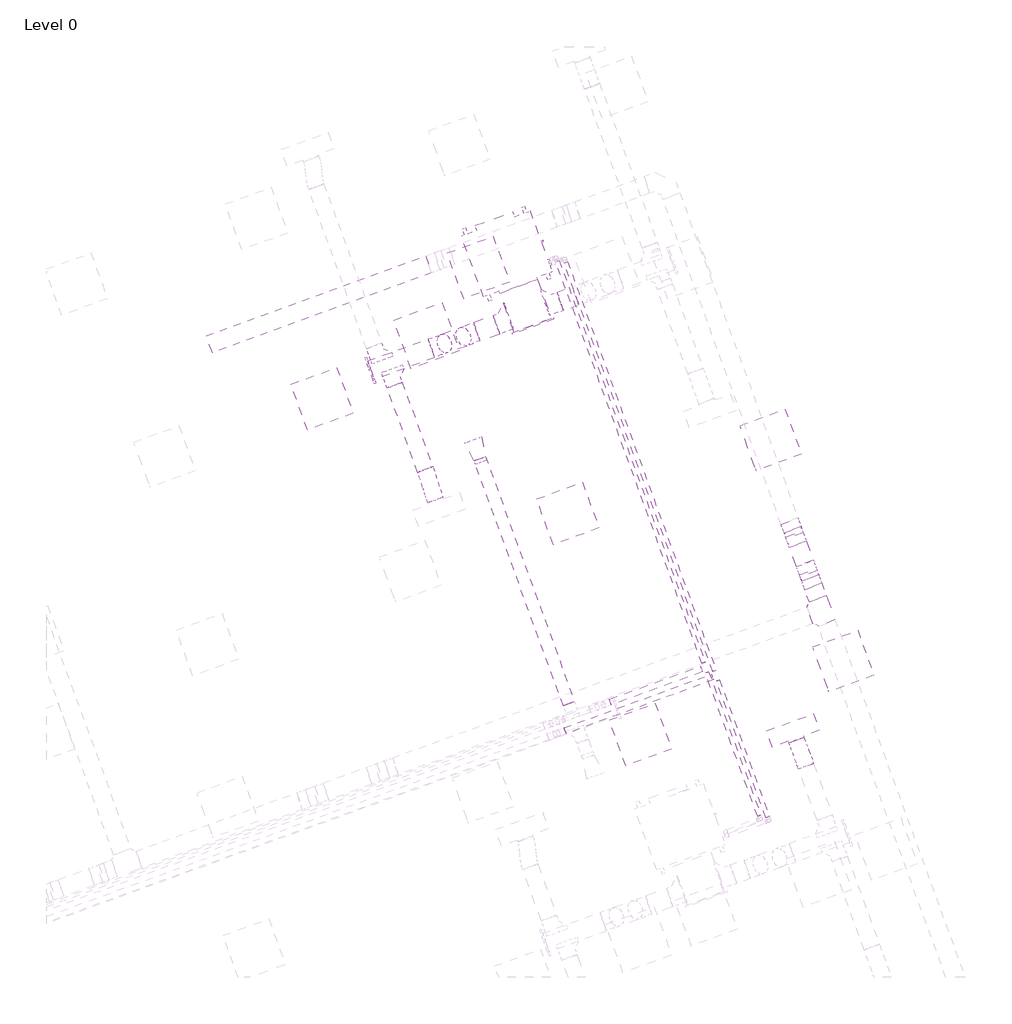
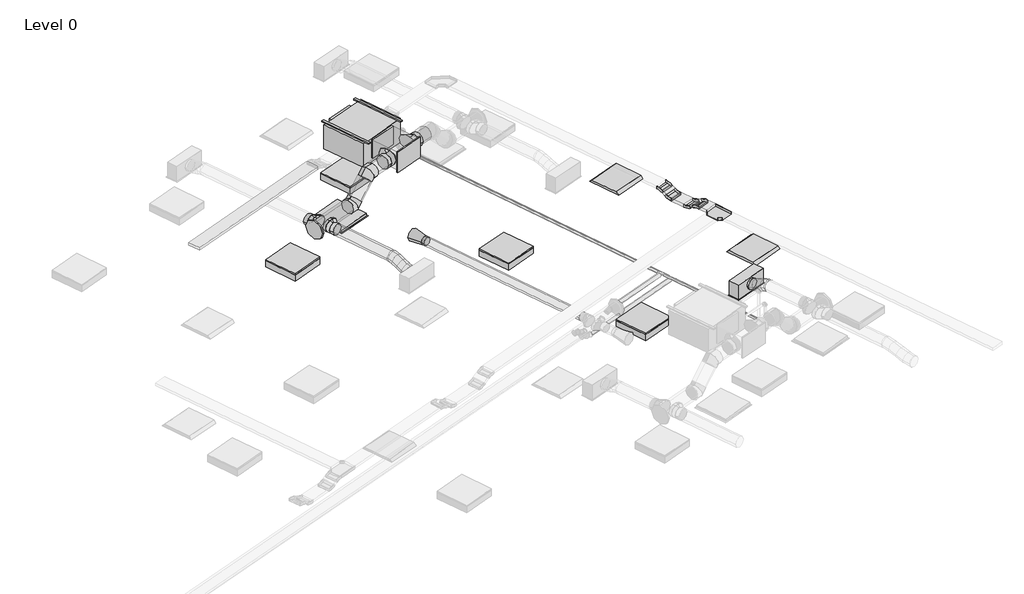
# One storey, part 32 of 34: 9 duct segments, 8 duct fittings, 6 light fixtures, 6 pipe segments, 5 cable carrier fittings, 5 cable carrier segments, 3 air terminals, 1 proxy.
"""IFC4 building model written with IfcOpenShell, lengths in millimetres."""

from ifc_helpers import new_model, si_unit, point, frame, frame_2d, origin, place, context, project, spatial, polyline, circle_curve, ellipse_curve, trimmed, segment, composite_curve, outline, extrude, transform, mapped, element, save
from ifc_brep_helpers import plane_surface, cylinder_surface, advanced_brep
from components import air_terminal_b88b8e4d, return_grille_rectangular_hosted_standard_7b12617c, supply_diffuser_with_plenum_linear_slot_hosted_8c379eed, fan_coil_unit_ceiling_ducted_chw_376_lps_9c8cc8ac, cable_tray_horizontal_tee_standard_d76b5e15, cable_tray_vertical_inside_bend_standard_9a66f55b, cable_tray_vertical_outside_bend_standard_4df2047e, dw144_rectangular_blank_end_standard_1669e3e3, dw144_round_blank_end_standard_e3d0b58b, dw144_round_segmented_bend_slip_joint_standard_636bd9c1, dw144_round_shoe_branch_slip_joint1_standard_2_559552f4, dw144_round_shoe_branch_slip_joint1_standard_2_4a92c8a1, dw144_round_shoe_branch_slip_joint1_standard_2_671412f0, light_fixture_b730b5ca, troffer_light_2x2_parabolic_2_x2_2_lamp_120v_6a063ff3

model = new_model("IFC4")

# Units and contexts
model_context = context("Model", 3, world=origin())
ifc_project = project(units=[si_unit("LENGTHUNIT", "METRE", prefix="MILLI")], contexts=[model_context])

# Site, building, storey
site = spatial("IfcSite", under=ifc_project)
building = spatial("IfcBuilding", under=site)
storey = spatial("IfcBuildingStorey", under=building, Name="Level 0", Elevation=0.0)

# Air terminals
placement = place(None, origin())
air_terminal_shape = air_terminal_b88b8e4d(model_context)
element("IfcAirTerminal", 1, ObjectType="Supply_Bell_Mouth_Grille : Supply_Bell_Mouth_Grille", at=placement, inside=storey, context=model_context, shape_type="MappedRepresentation", body=[
    mapped(air_terminal_shape, transform((58081.5319053, 19738.0197173, 3050.0), x_axis=(-0.3420201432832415, 0.9396926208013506, 0.0), y_axis=(-0.9396926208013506, -0.3420201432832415, 0.0), z_axis=(0.0, 0.0, 1.0))),
])
return_grille_rectangular_hosted_standard_shape = return_grille_rectangular_hosted_standard_7b12617c(model_context)
element("IfcAirTerminal", 2, ObjectType="Return Grille - Rectangular - Hosted : Standard", at=placement, inside=storey, context=model_context, shape_type="MappedRepresentation", body=[
    mapped(return_grille_rectangular_hosted_standard_shape, transform((57415.537706, 21278.3997704, 2800.0), x_axis=(0.939692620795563, 0.34202014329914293, 0.0), y_axis=(0.34202014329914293, -0.939692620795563, 0.0), z_axis=(0.0, 0.0, -1.0))),
])
supply_diffuser_with_plenum_linear_slot_hosted_shape = supply_diffuser_with_plenum_linear_slot_hosted_8c379eed(model_context)
element("IfcAirTerminal", 3, ObjectType="Supply Diffuser with Plenum - Linear Slot - Hosted : 24\" x 8\"-200 In Inlet  4-Slot", at=placement, inside=storey, context=model_context, shape_type="MappedRepresentation", body=[
    mapped(supply_diffuser_with_plenum_linear_slot_hosted_shape, transform((62001.2706716, 16338.1811806, 2800.0), x_axis=(-0.9396926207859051, -0.3420201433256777, 0.0), y_axis=(-0.3420201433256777, 0.9396926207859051, 0.0), z_axis=(0.0, 0.0, -1.0))),
])

# Proxy
fan_coil_unit_ceiling_ducted_chw_376_lps_shape = fan_coil_unit_ceiling_ducted_chw_376_lps_9c8cc8ac(model_context)
element("IfcBuildingElementProxy", 4, Name="Fan Coil Unit - Ceiling Ducted - CHW : 376 LPS", ObjectType="Fan Coil Unit - Ceiling Ducted - CHW : 376 LPS", at=placement, inside=storey, context=model_context, shape_type="MappedRepresentation", body=[
    mapped(fan_coil_unit_ceiling_ducted_chw_376_lps_shape, transform((58128.3265173, 21761.0235029, 3215.575), x_axis=(0.9396926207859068, 0.34202014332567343, 0.0), y_axis=(-0.34202014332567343, 0.9396926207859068, 0.0), z_axis=(0.0, 0.0, 1.0))),
])

# Cable carrier fittings
cable_tray_horizontal_tee_standard_shape = cable_tray_horizontal_tee_standard_d76b5e15(model_context)
element("IfcCableCarrierFitting", 5, ObjectType="Cable Tray Horizontal Tee : Standard", at=placement, inside=storey, context=model_context, shape_type="MappedRepresentation", body=[
    mapped(cable_tray_horizontal_tee_standard_shape, transform((62366.6932534, 17834.0619919, 3248.9627355), x_axis=(0.3420201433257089, -0.9396926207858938, 0.0), y_axis=(0.9396926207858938, 0.3420201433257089, 0.0), z_axis=(0.0, 0.0, 1.0))),
])
cable_tray_vertical_inside_bend_standard_shape = cable_tray_vertical_inside_bend_standard_9a66f55b(model_context)
element("IfcCableCarrierFitting", 6, ObjectType="Cable Tray Vertical Inside Bend : Standard", at=placement, inside=storey, context=model_context, shape_type="MappedRepresentation", body=[
    mapped(cable_tray_vertical_inside_bend_standard_shape, transform((62173.4812107, 18364.9077165, 3148.9627355), x_axis=(0.3420201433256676, -0.9396926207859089, 0.0), y_axis=(0.0, 0.0, 1.0000000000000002), z_axis=(-0.9396926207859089, -0.3420201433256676, 0.0))),
])
element("IfcCableCarrierFitting", 7, ObjectType="Cable Tray Vertical Inside Bend : Standard", at=placement, inside=storey, context=model_context, shape_type="MappedRepresentation", body=[
    mapped(cable_tray_vertical_inside_bend_standard_shape, transform((62039.8978743, 18731.9249168, 3148.9627355), x_axis=(0.29619813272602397, -0.8137976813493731, -0.5000000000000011), y_axis=(0.17101007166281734, -0.4698463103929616, 0.8660254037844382), z_axis=(-0.9396926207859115, -0.3420201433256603, 0.0))),
])
cable_tray_vertical_outside_bend_standard_shape = cable_tray_vertical_outside_bend_standard_4df2047e(model_context)
element("IfcCableCarrierFitting", 8, ObjectType="Cable Tray Vertical Outside Bend : Standard", at=placement, inside=storey, context=model_context, shape_type="MappedRepresentation", body=[
    mapped(cable_tray_vertical_outside_bend_standard_shape, transform((62232.7208373, 18202.1481802, 3248.9627355), x_axis=(-0.34202014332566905, 0.9396926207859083, 0.0), y_axis=(0.0, 0.0, -1.0), z_axis=(-0.9396926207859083, -0.34202014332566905, 0.0))),
])
element("IfcCableCarrierFitting", 9, ObjectType="Cable Tray Vertical Outside Bend : Standard", at=placement, inside=storey, context=model_context, shape_type="MappedRepresentation", body=[
    mapped(cable_tray_vertical_outside_bend_standard_shape, transform((61980.6582478, 18894.6844531, 3248.9627355), x_axis=(-0.29619813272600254, 0.8137976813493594, 0.500000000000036), y_axis=(-0.1710100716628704, 0.4698463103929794, -0.866025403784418), z_axis=(-0.9396926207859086, -0.3420201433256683, 0.0))),
])

# Cable carrier segments
element("IfcCableCarrierSegment", 10, ObjectType="Perforated Cable Tray", at=placement, inside=storey, context=model_context, shape_type="SweptSolid", body=[
    extrude(outline(polyline([(62416.8304, 18025.2393089), (62205.3995603, 17948.2847766), (62149.9164227, 18100.7234443), (62361.3472624, 18177.6779766), (62416.8304, 18025.2393089)])), frame((0.0, 0.0, 3223.9627355), z_axis=(0.0, 0.0, 1.0), x_axis=(1.0, 0.0, 0.0)), (0.0, 0.0, 1.0), 50.0),
])
element("IfcCableCarrierSegment", 11, ObjectType="Perforated Cable Tray", at=placement, inside=storey, context=model_context, shape_type="SweptSolid", body=[
    extrude(outline(polyline([(0.0, -225.0), (0.0, 0.0), (66.0254038, 0.0), (66.0254037, -225.0), (0.0, -225.0)])), frame((62111.4391566, 18206.4388642, 3193.8184513), z_axis=(-0.1710100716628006, 0.4698463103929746, 0.8660254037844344), x_axis=(-0.29619813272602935, 0.8137976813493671, -0.5000000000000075)), (0.0, 0.0, 1.0), 50.0),
])
element("IfcCableCarrierSegment", 12, ObjectType="Perforated Cable Tray", at=placement, inside=storey, context=model_context, shape_type="SweptSolid", body=[
    extrude(outline(polyline([(62256.2856253, 18466.3324523), (62044.8547856, 18389.3779201), (61957.0934598, 18630.500181), (62168.5242995, 18707.4547132), (62256.2856253, 18466.3324523)])), frame((0.0, 0.0, 3123.9627355), z_axis=(0.0, 0.0, 1.0), x_axis=(1.0, 0.0, 0.0)), (0.0, 0.0, 1.0), 50.0),
])
element("IfcCableCarrierSegment", 13, ObjectType="Perforated Cable Tray", at=placement, inside=storey, context=model_context, shape_type="SweptSolid", body=[
    extrude(outline(polyline([(0.0, -225.0), (0.0, 0.0), (66.0254038, 0.0), (66.0254038, -225.0), (0.0, -225.0)])), frame((61910.0656901, 18759.7079163, 3160.8057494), z_axis=(0.17101007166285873, -0.469846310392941, 0.866025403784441), x_axis=(-0.2961981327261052, 0.8137976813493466, 0.49999999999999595)), (0.0, 0.0, 1.0), 50.0),
])
element("IfcCableCarrierSegment", 14, ObjectType="Perforated Cable Tray", at=placement, inside=storey, context=model_context, shape_type="SweptSolid", body=[
    extrude(outline(polyline([(57404.0868122, 22274.5262105), (57481.0413445, 22063.0953708), (54735.1563016, 21063.6749485), (54658.2017694, 21275.1057882), (57404.0868122, 22274.5262105)])), frame((0.0, 0.0, 3223.9627355), z_axis=(0.0, 0.0, 1.0), x_axis=(1.0, 0.0, 0.0)), (0.0, 0.0, 1.0), 50.0),
])

# Duct fittings
dw144_rectangular_blank_end_standard_shape = dw144_rectangular_blank_end_standard_1669e3e3(model_context)
element("IfcDuctFitting", 15, ObjectType="DW144 Rectangular Blank End : Standard", at=placement, inside=storey, context=model_context, shape_type="MappedRepresentation", body=[
    mapped(dw144_rectangular_blank_end_standard_shape, transform((58744.3549616, 21405.2626341, 3469.575), x_axis=(0.34202014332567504, -0.9396926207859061, 0.0), y_axis=(0.9396926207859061, 0.34202014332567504, 0.0), z_axis=(0.0, 0.0, 1.0))),
])
dw144_round_blank_end_standard_shape = dw144_round_blank_end_standard_e3d0b58b(model_context)
element("IfcDuctFitting", 16, ObjectType="DW144 Round Blank End : Standard", at=placement, inside=storey, context=model_context, shape_type="MappedRepresentation", body=[
    mapped(dw144_round_blank_end_standard_shape, transform((56721.6415567, 20844.3987052, 3072.2088531), x_axis=(-0.9396926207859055, -0.3420201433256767, 0.0), y_axis=(0.3420201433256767, -0.9396926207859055, 0.0), z_axis=(0.0, 0.0, 1.0))),
])
dw144_round_segmented_bend_slip_joint_standard_shape = dw144_round_segmented_bend_slip_joint_standard_636bd9c1(model_context)
element("IfcDuctFitting", 17, ObjectType="DW144 Round Segmented Bend - Slip Joint : Standard", at=placement, inside=storey, context=model_context, shape_type="MappedRepresentation", body=[
    mapped(dw144_round_segmented_bend_slip_joint_standard_shape, transform((57572.2414269, 21153.9917392, 3072.2088531), x_axis=(-0.6644630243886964, -0.24184476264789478, -0.7071067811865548), y_axis=(-0.6644630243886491, -0.24184476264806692, 0.7071067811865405), z_axis=(-0.34202014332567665, 0.9396926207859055, 0.0))),
])
element("IfcDuctFitting", 18, ObjectType="DW144 Round Segmented Bend - Slip Joint : Standard", at=placement, inside=storey, context=model_context, shape_type="MappedRepresentation", body=[
    mapped(dw144_round_segmented_bend_slip_joint_standard_shape, transform((57945.6434628, 21289.8989657, 3469.575), x_axis=(-0.9396926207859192, -0.3420201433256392, 0.0), y_axis=(0.0, 0.0, -1.0000000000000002), z_axis=(0.3420201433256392, -0.9396926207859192, 0.0))),
])
dw144_round_shoe_branch_slip_joint1_standard_2_shape = dw144_round_shoe_branch_slip_joint1_standard_2_559552f4(model_context)
element("IfcDuctFitting", 19, ObjectType="DW144 Round Shoe Branch - Slip Joint1 : Standard 2", at=placement, inside=storey, context=model_context, shape_type="MappedRepresentation", body=[
    mapped(dw144_round_shoe_branch_slip_joint1_standard_2_shape, transform((56809.7266884, 21009.4812928, 3072.2088531), x_axis=(-0.3420201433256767, 0.9396926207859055, 0.0), y_axis=(0.9396926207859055, 0.3420201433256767, 0.0), z_axis=(0.0, 0.0, -1.0))),
])
element("IfcDuctFitting", 20, ObjectType="DW144 Round Shoe Branch - Slip Joint1 : Standard 2", at=placement, inside=storey, context=model_context, shape_type="MappedRepresentation", body=[
    mapped(dw144_round_shoe_branch_slip_joint1_standard_2_shape, transform((56963.7838783, 20799.5090812, 3072.2088531), x_axis=(0.3420201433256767, -0.9396926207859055, 0.0), y_axis=(0.9396926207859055, 0.3420201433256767, 0.0), z_axis=(0.0, 0.0, 1.0))),
])
dw144_round_shoe_branch_slip_joint1_standard_2_2_shape = dw144_round_shoe_branch_slip_joint1_standard_2_4a92c8a1(model_context)
element("IfcDuctFitting", 21, ObjectType="DW144 Round Shoe Branch - Slip Joint1 : Standard 2", at=placement, inside=storey, context=model_context, shape_type="MappedRepresentation", body=[
    mapped(dw144_round_shoe_branch_slip_joint1_standard_2_2_shape, transform((58922.9237884, 21645.5999148, 3469.575), x_axis=(0.9396926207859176, 0.3420201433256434, 0.0), y_axis=(0.3420201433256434, -0.9396926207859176, 0.0), z_axis=(0.0, 0.0, -1.0))),
])
dw144_round_shoe_branch_slip_joint1_standard_2_3_shape = dw144_round_shoe_branch_slip_joint1_standard_2_671412f0(model_context)
element("IfcDuctFitting", 22, ObjectType="DW144 Round Shoe Branch - Slip Joint1 : Standard 2", at=placement, inside=storey, context=model_context, shape_type="MappedRepresentation", body=[
    mapped(dw144_round_shoe_branch_slip_joint1_standard_2_3_shape, transform((58453.077478, 21474.5898431, 3469.575), x_axis=(-0.9396926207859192, -0.3420201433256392, 0.0), y_axis=(-0.3420201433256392, 0.9396926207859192, 0.0), z_axis=(0.0, 0.0, -1.0))),
])

# Duct segments
element("IfcDuctSegment", 23, ObjectType="DW144 Flanged Med Radius Bend / Shoe Branch", at=placement, inside=storey, context=model_context, shape_type="SweptSolid", body=[
    extrude(outline(polyline([(58331.71814, 21808.0218841), (58801.5644504, 21979.0319557), (58979.2781168, 21490.76767), (58509.4318064, 21319.7575983), (58331.71814, 21808.0218841)])), frame((0.0, 0.0, 3294.575), z_axis=(0.0, 0.0, 1.0), x_axis=(1.0, 0.0, 0.0)), (0.0, 0.0, 1.0), 350.0),
])
element("IfcDuctSegment", 24, ObjectType="DW144 Segmented Bend / Shoe Branch", at=placement, inside=storey, context=model_context, shape_type="SweptSolid", body=[
    extrude(outline(composite_curve([segment(trimmed(circle_curve(frame_2d((0.0, 125.0)), 125.0), [point((125.0, 125.0))], [point((0.0, 0.0))], False, "CARTESIAN"), True, "CONTINUOUS"), segment(trimmed(circle_curve(frame_2d((0.0, 125.0)), 125.0), [point((0.0, 0.0))], [point((-125.0, 125.0))], False, "CARTESIAN"), True, "CONTINUOUS"), segment(trimmed(circle_curve(frame_2d((0.0, 125.0)), 125.0), [point((-125.0, 125.0))], [point((0.0, 250.0))], False, "CARTESIAN"), True, "CONTINUOUS"), segment(trimmed(circle_curve(frame_2d((0.0, 125.0)), 125.0), [point((0.0, 250.0))], [point((125.0, 125.0))], False, "CARTESIAN"), True, "CONTINUOUS")], self_intersect=False)), frame((56721.6415567, 20844.3987052, 3197.2088531), z_axis=(0.9396926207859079, 0.3420201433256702, 0.0), x_axis=(0.3420201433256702, -0.9396926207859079, 0.0)), (0.0, 0.0, 1.0), 801.6360845),
])
element("IfcDuctSegment", 25, ObjectType="DW144 Segmented Bend / Shoe Branch", at=placement, inside=storey, context=model_context, shape_type="SweptSolid", body=[
    extrude(outline(composite_curve([segment(trimmed(circle_curve(frame_2d((0.0, 100.0)), 100.0), [point((100.0, 100.0))], [point((0.0, 0.0))], False, "CARTESIAN"), True, "CONTINUOUS"), segment(trimmed(circle_curve(frame_2d((0.0, 100.0)), 100.0), [point((0.0, 0.0))], [point((-100.0, 100.0))], False, "CARTESIAN"), True, "CONTINUOUS"), segment(trimmed(circle_curve(frame_2d((0.0, 100.0)), 100.0), [point((-100.0, 100.0))], [point((0.0, 200.0))], False, "CARTESIAN"), True, "CONTINUOUS"), segment(trimmed(circle_curve(frame_2d((0.0, 100.0)), 100.0), [point((0.0, 200.0))], [point((100.0, 100.0))], False, "CARTESIAN"), True, "CONTINUOUS")], self_intersect=False)), frame((57399.1073496, 19603.4676736, 3172.2088531), z_axis=(-0.3420201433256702, 0.9396926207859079, 0.0), x_axis=(0.9396926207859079, 0.3420201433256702, 0.0)), (0.0, 0.0, 1.0), 1122.8006809),
])
element("IfcDuctSegment", 26, ObjectType="DW144 Segmented Bend / Shoe Branch", at=placement, inside=storey, context=model_context, shape_type="SweptSolid", body=[
    extrude(outline(composite_curve([segment(trimmed(circle_curve(frame_2d((0.0, 125.0)), 125.0), [point((125.0, 125.0))], [point((0.0, 0.0))], False, "CARTESIAN"), True, "CONTINUOUS"), segment(trimmed(circle_curve(frame_2d((0.0, 125.0)), 125.0), [point((0.0, 0.0))], [point((-125.0, 125.0))], False, "CARTESIAN"), True, "CONTINUOUS"), segment(trimmed(circle_curve(frame_2d((0.0, 125.0)), 125.0), [point((-125.0, 125.0))], [point((0.0, 250.0))], False, "CARTESIAN"), True, "CONTINUOUS"), segment(trimmed(circle_curve(frame_2d((0.0, 125.0)), 125.0), [point((0.0, 250.0))], [point((125.0, 125.0))], False, "CARTESIAN"), True, "CONTINUOUS")], self_intersect=False)), frame((59087.3699971, 21705.4534398, 3594.575), z_axis=(0.9396926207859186, 0.3420201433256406, 0.0), x_axis=(0.3420201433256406, -0.9396926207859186, 0.0)), (0.0, 0.0, 1.0), 201.4466094),
])
element("IfcDuctSegment", 27, ObjectType="DW144 Segmented Bend / Shoe Branch", at=placement, inside=storey, context=model_context, shape_type="SweptSolid", body=[
    extrude(outline(composite_curve([segment(trimmed(circle_curve(frame_2d((0.0, -125.0)), 125.0), [point((-125.0, -125.0))], [point((0.0, 0.0))], False, "CARTESIAN"), True, "CONTINUOUS"), segment(trimmed(circle_curve(frame_2d((0.0, -125.0)), 125.0), [point((0.0, 0.0))], [point((125.0, -125.0))], False, "CARTESIAN"), True, "CONTINUOUS"), segment(trimmed(circle_curve(frame_2d((0.0, -125.0)), 125.0), [point((125.0, -125.0))], [point((0.0, -250.0))], False, "CARTESIAN"), True, "CONTINUOUS"), segment(trimmed(circle_curve(frame_2d((0.0, -125.0)), 125.0), [point((0.0, -250.0))], [point((-125.0, -125.0))], False, "CARTESIAN"), True, "CONTINUOUS")], self_intersect=False)), frame((58042.9518198, 21325.3163112, 3344.575), z_axis=(0.9396926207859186, 0.3420201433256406, 0.0), x_axis=(0.3420201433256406, -0.9396926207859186, 0.0)), (0.0, 0.0, 1.0), 261.4466094),
])
element("IfcDuctSegment", 28, ObjectType="DW144 Segmented Bend / Shoe Branch", at=placement, inside=storey, context=model_context, shape_type="SweptSolid", body=[
    extrude(outline(composite_curve([segment(trimmed(circle_curve(frame_2d((0.0, -124.9999999)), 125.0), [point((-57.2076923, -13.8591886))], [point((111.1408113, -67.7923077))], False, "CARTESIAN"), True, "CONTINUOUS"), segment(trimmed(circle_curve(frame_2d((0.0, -124.9999999)), 125.0), [point((111.1408113, -67.7923077))], [point((57.2076923, -236.1408113))], False, "CARTESIAN"), True, "CONTINUOUS"), segment(trimmed(circle_curve(frame_2d((0.0, -124.9999999)), 125.0), [point((57.2076923, -236.1408113))], [point((-111.1408114, -182.2076923))], False, "CARTESIAN"), True, "CONTINUOUS"), segment(trimmed(circle_curve(frame_2d((0.0, -124.9999999)), 125.0), [point((-111.1408114, -182.2076923))], [point((-57.2076923, -13.8591886))], False, "CARTESIAN"), True, "CONTINUOUS")], self_intersect=False)), frame((57641.048826, 21297.3091654, 3104.9802107), z_axis=(0.664463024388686, 0.24184476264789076, 0.7071067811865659), x_axis=(0.7473211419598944, -0.21503058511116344, -0.6287073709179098)), (0.0, 0.0, 1.0), 354.8538129),
])
element("IfcDuctSegment", 29, ObjectType="DW144 Segmented Bend / Shoe Branch", at=placement, inside=storey, context=model_context, shape_type="SweptSolid", body=[
    extrude(outline(composite_curve([segment(trimmed(circle_curve(frame_2d((0.0, 75.0)), 75.0), [point((75.0, 75.0))], [point((0.0, 0.0))], False, "CARTESIAN"), True, "CONTINUOUS"), segment(trimmed(circle_curve(frame_2d((0.0, 75.0)), 75.0), [point((0.0, 0.0))], [point((-75.0000001, 75.0))], False, "CARTESIAN"), True, "CONTINUOUS"), segment(trimmed(circle_curve(frame_2d((0.0, 75.0)), 75.0), [point((-75.0000001, 75.0))], [point((0.0, 150.0))], False, "CARTESIAN"), True, "CONTINUOUS"), segment(trimmed(circle_curve(frame_2d((0.0, 75.0)), 75.0), [point((0.0, 150.0))], [point((75.0, 75.0))], False, "CARTESIAN"), True, "CONTINUOUS")], self_intersect=False)), frame((59197.2979604, 16672.4776751, 3125.0), z_axis=(-0.3420201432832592, 0.9396926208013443, 0.0), x_axis=(0.9396926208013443, 0.3420201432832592, 0.0)), (0.0, 0.0, 1.0), 3262.2817019),
])
element("IfcDuctSegment", 30, ObjectType="Flex - Round", at=placement, inside=storey, context=model_context, shape_type="AdvancedBrep", body=[
    advanced_brep(
    [(57493.0766117, 19637.669688, 3072.2088531), (57399.1073496, 19603.4676736, 2972.2088531), (57305.1380875, 19569.2656593, 3072.2088531), (57399.1073496, 19603.4676736, 3172.2088531), (57499.4980825, 19620.026842, 3072.2088531), (57401.4856469, 19596.9333555, 2972.2088531), (57310.8290271, 19553.6299313, 3072.2088531), (57408.8414627, 19576.7234177, 3172.2088531), (57619.8473001, 19255.1615739, 2954.4), (57525.878038, 19220.9595595, 3054.4), (57431.9087759, 19186.7575452, 2954.4), (57525.878038, 19220.9595595, 2854.4), (57527.3186901, 19538.1260265, 3053.3905604), (57422.5860609, 19534.8160527, 2957.9362042), (57337.4354126, 19475.3036527, 3054.2118792), (57442.1680418, 19478.6136265, 3149.6662355), (57557.67714, 19442.8628872, 3012.5672617), (57450.2568433, 19447.9866655, 2920.7270377), (57367.3082476, 19381.5643459, 3014.0415914), (57474.7285444, 19376.4405676, 3105.8818154), (57587.5499751, 19349.1235804, 2972.3969739), (57482.8173458, 19345.8136066, 2876.9426177), (57397.6666975, 19286.3012066, 2973.2182927), (57502.3993268, 19289.6111804, 3068.6726489), (57614.1563605, 19270.7973019, 2954.4), (57516.1439249, 19247.7038155, 2854.4), (57425.4873052, 19204.4003912, 2954.4), (57523.4997407, 19227.4938776, 3054.4)],
    [
        (0, 1, circle_curve(frame((57399.1073496, 19603.4676736, 3072.2088531), z_axis=(-0.3420201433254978, 0.9396926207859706, 0.0), x_axis=(0.9396926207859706, 0.3420201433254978, 0.0)), 100.0)),
        (1, 2, circle_curve(frame((57399.1073496, 19603.4676736, 3072.2088531), z_axis=(-0.3420201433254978, 0.9396926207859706, 0.0), x_axis=(0.9396926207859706, 0.3420201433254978, 0.0)), 100.0)),
        (2, 3, circle_curve(frame((57399.1073496, 19603.4676736, 3072.2088531), z_axis=(-0.3420201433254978, 0.9396926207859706, 0.0), x_axis=(0.9396926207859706, 0.3420201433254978, 0.0)), 100.0)),
        (3, 0, circle_curve(frame((57399.1073496, 19603.4676736, 3072.2088531), z_axis=(-0.3420201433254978, 0.9396926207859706, 0.0), x_axis=(0.9396926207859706, 0.3420201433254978, 0.0)), 100.0)),
        (0, 4),
        (4, 5, ellipse_curve(frame((57405.1635548, 19586.8283866, 3072.2088531), z_axis=(-0.33006294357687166, 0.9378849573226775, 0.10691239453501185), x_axis=(-0.12907576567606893, 0.06735376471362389, -0.9893446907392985)), 100.582195, 100.0)),
        (5, 1),
        (5, 6, ellipse_curve(frame((57405.1635548, 19586.8283866, 3072.2088531), z_axis=(-0.33006294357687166, 0.9378849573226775, 0.10691239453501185), x_axis=(-0.12907576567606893, 0.06735376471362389, -0.9893446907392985)), 100.582195, 100.0)),
        (6, 2),
        (6, 7, ellipse_curve(frame((57405.1635548, 19586.8283866, 3072.2088531), z_axis=(-0.33006294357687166, 0.9378849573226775, 0.10691239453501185), x_axis=(-0.12907576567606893, 0.06735376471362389, -0.9893446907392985)), 100.582195, 100.0)),
        (7, 3),
        (7, 4, ellipse_curve(frame((57405.1635548, 19586.8283866, 3072.2088531), z_axis=(-0.33006294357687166, 0.9378849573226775, 0.10691239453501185), x_axis=(-0.12907576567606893, 0.06735376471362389, -0.9893446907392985)), 100.582195, 100.0)),
        (8, 9, circle_curve(frame((57525.878038, 19220.9595595, 2954.4), z_axis=(0.3420201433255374, -0.9396926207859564, 0.0), x_axis=(0.9396926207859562, 0.3420201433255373, 0.0)), 100.0)),
        (9, 10, circle_curve(frame((57525.878038, 19220.9595595, 2954.4), z_axis=(0.3420201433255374, -0.9396926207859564, 0.0), x_axis=(0.9396926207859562, 0.3420201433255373, 0.0)), 100.0)),
        (10, 11, circle_curve(frame((57525.878038, 19220.9595595, 2954.4), z_axis=(0.3420201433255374, -0.9396926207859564, 0.0), x_axis=(0.9396926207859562, 0.3420201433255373, 0.0)), 100.0)),
        (11, 8, circle_curve(frame((57525.878038, 19220.9595595, 2954.4), z_axis=(0.3420201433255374, -0.9396926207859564, 0.0), x_axis=(0.9396926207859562, 0.3420201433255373, 0.0)), 100.0)),
        (4, 12),
        (12, 13, ellipse_curve(frame((57432.3770513, 19506.7148396, 3053.8012198), z_axis=(-0.2988301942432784, 0.9071022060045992, 0.2964221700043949), x_axis=(-0.1905324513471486, 0.24764957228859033, -0.9499300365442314)), 100.3812182, 100.0)),
        (13, 5),
        (13, 14, ellipse_curve(frame((57432.3770513, 19506.7148396, 3053.8012198), z_axis=(-0.2988301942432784, 0.9071022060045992, 0.2964221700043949), x_axis=(-0.1905324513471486, 0.24764957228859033, -0.9499300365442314)), 100.3812182, 100.0)),
        (14, 6),
        (14, 15, ellipse_curve(frame((57432.3770513, 19506.7148396, 3053.8012198), z_axis=(-0.2988301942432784, 0.9071022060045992, 0.2964221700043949), x_axis=(-0.1905324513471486, 0.24764957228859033, -0.9499300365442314)), 100.3812182, 100.0)),
        (15, 7),
        (15, 12, ellipse_curve(frame((57432.3770513, 19506.7148396, 3053.8012198), z_axis=(-0.2988301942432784, 0.9071022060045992, 0.2964221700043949), x_axis=(-0.1905324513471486, 0.24764957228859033, -0.9499300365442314)), 100.3812182, 100.0)),
        (12, 16),
        (16, 17, circle_curve(frame((57462.4926938, 19412.2136166, 3013.3044266), z_axis=(-0.2811058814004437, 0.8820947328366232, 0.37800577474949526), x_axis=(0.9518444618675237, 0.30649270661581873, -0.007371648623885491)), 100.0)),
        (17, 13),
        (17, 18, circle_curve(frame((57462.4926938, 19412.2136166, 3013.3044266), z_axis=(-0.2811058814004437, 0.8820947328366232, 0.37800577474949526), x_axis=(0.9518444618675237, 0.30649270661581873, -0.007371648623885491)), 100.0)),
        (18, 14),
        (18, 19, circle_curve(frame((57462.4926938, 19412.2136166, 3013.3044266), z_axis=(-0.2811058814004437, 0.8820947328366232, 0.37800577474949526), x_axis=(0.9518444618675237, 0.30649270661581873, -0.007371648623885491)), 100.0)),
        (19, 15),
        (19, 16, circle_curve(frame((57462.4926938, 19412.2136166, 3013.3044266), z_axis=(-0.2811058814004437, 0.8820947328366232, 0.37800577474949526), x_axis=(0.9518444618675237, 0.30649270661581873, -0.007371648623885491)), 100.0)),
        (16, 20),
        (20, 21, ellipse_curve(frame((57492.6083363, 19317.7123935, 2972.8076333), z_axis=(-0.29883019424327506, 0.9071022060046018, 0.29642217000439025), x_axis=(0.19053245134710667, -0.24764957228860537, 0.9499300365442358)), 100.3812182, 100.0)),
        (21, 17),
        (21, 22, ellipse_curve(frame((57492.6083363, 19317.7123935, 2972.8076333), z_axis=(-0.29883019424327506, 0.9071022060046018, 0.29642217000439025), x_axis=(0.19053245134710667, -0.24764957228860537, 0.9499300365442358)), 100.3812182, 100.0)),
        (22, 18),
        (22, 23, ellipse_curve(frame((57492.6083363, 19317.7123935, 2972.8076333), z_axis=(-0.29883019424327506, 0.9071022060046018, 0.29642217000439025), x_axis=(0.19053245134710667, -0.24764957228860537, 0.9499300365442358)), 100.3812182, 100.0)),
        (23, 19),
        (23, 20, ellipse_curve(frame((57492.6083363, 19317.7123935, 2972.8076333), z_axis=(-0.29883019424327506, 0.9071022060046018, 0.29642217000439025), x_axis=(0.19053245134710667, -0.24764957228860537, 0.9499300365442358)), 100.3812182, 100.0)),
        (20, 24),
        (24, 25, ellipse_curve(frame((57519.8218328, 19237.5988465, 2954.4), z_axis=(-0.3300629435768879, 0.9378849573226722, 0.10691239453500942), x_axis=(0.1290757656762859, -0.06735376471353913, 0.989344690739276)), 100.582195, 100.0)),
        (25, 21),
        (25, 26, ellipse_curve(frame((57519.8218328, 19237.5988465, 2954.4), z_axis=(-0.3300629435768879, 0.9378849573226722, 0.10691239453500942), x_axis=(0.1290757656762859, -0.06735376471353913, 0.989344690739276)), 100.582195, 100.0)),
        (26, 22),
        (26, 27, ellipse_curve(frame((57519.8218328, 19237.5988465, 2954.4), z_axis=(-0.3300629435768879, 0.9378849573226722, 0.10691239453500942), x_axis=(0.1290757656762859, -0.06735376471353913, 0.989344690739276)), 100.582195, 100.0)),
        (27, 23),
        (27, 24, ellipse_curve(frame((57519.8218328, 19237.5988465, 2954.4), z_axis=(-0.3300629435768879, 0.9378849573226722, 0.10691239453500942), x_axis=(0.1290757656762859, -0.06735376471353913, 0.989344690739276)), 100.582195, 100.0)),
        (24, 8),
        (11, 25),
        (10, 26),
        (9, 27),
    ],
    [
        plane_surface(frame((57399.1073496, 19603.4676736, 2972.2088531), z_axis=(-0.3420201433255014, 0.9396926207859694, 0.0), x_axis=(0.9396926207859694, 0.3420201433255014, 0.0))),
        cylinder_surface(frame((57399.1073496, 19603.4676736, 3072.2088531), z_axis=(-0.3420201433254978, 0.9396926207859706, 0.0), x_axis=(0.9396926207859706, 0.3420201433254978, 0.0)), 100.0),
        plane_surface(frame((57525.878038, 19220.9595595, 2854.4), z_axis=(0.3420201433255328, -0.9396926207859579, 0.0), x_axis=(0.9396926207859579, 0.3420201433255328, 0.0))),
        cylinder_surface(frame((57405.1635548, 19586.8283866, 3072.2088531), z_axis=(-0.31428476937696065, 0.9252198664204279, 0.21258711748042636), x_axis=(0.9467017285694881, 0.32210352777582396, -0.0022703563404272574)), 100.0),
        cylinder_surface(frame((57432.3770513, 19506.7148396, 3053.8012198), z_axis=(-0.2811058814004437, 0.8820947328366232, 0.37800577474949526), x_axis=(0.9518444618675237, 0.30649270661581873, -0.007371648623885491)), 100.0),
        cylinder_surface(frame((57462.4926938, 19412.2136166, 3013.3044266), z_axis=(-0.2811058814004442, 0.8820947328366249, 0.3780057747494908), x_axis=(0.9518444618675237, 0.3064927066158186, -0.007371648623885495)), 100.0),
        cylinder_surface(frame((57492.6083363, 19317.7123935, 2972.8076333), z_axis=(-0.31428476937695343, 0.9252198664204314, 0.21258711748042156), x_axis=(0.9467017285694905, 0.3221035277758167, -0.0022703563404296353)), 100.0),
        cylinder_surface(frame((57519.8218328, 19237.5988465, 2954.4), z_axis=(-0.3420201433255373, 0.9396926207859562, 0.0), x_axis=(0.9396926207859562, 0.3420201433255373, 0.0)), 100.0),
    ],
    [
        (0, [[1, 2, 3, 4]]),
        (1, [[-1, 5, 6, 7]]),
        (1, [[-2, -7, 8, 9]]),
        (1, [[-3, -9, 10, 11]]),
        (1, [[-4, -11, 12, -5]]),
        (2, [[13, 14, 15, 16]]),
        (3, [[-6, 17, 18, 19]]),
        (3, [[-8, -19, 20, 21]]),
        (3, [[-10, -21, 22, 23]]),
        (3, [[-12, -23, 24, -17]]),
        (4, [[-18, 25, 26, 27]]),
        (4, [[-20, -27, 28, 29]]),
        (4, [[-22, -29, 30, 31]]),
        (4, [[-24, -31, 32, -25]]),
        (5, [[-26, 33, 34, 35]]),
        (5, [[-28, -35, 36, 37]]),
        (5, [[-30, -37, 38, 39]]),
        (5, [[-32, -39, 40, -33]]),
        (6, [[-34, 41, 42, 43]]),
        (6, [[-36, -43, 44, 45]]),
        (6, [[-38, -45, 46, 47]]),
        (6, [[-40, -47, 48, -41]]),
        (7, [[-42, 49, -16, 50]]),
        (7, [[-44, -50, -15, 51]]),
        (7, [[-46, -51, -14, 52]]),
        (7, [[-48, -52, -13, -49]]),
    ],
),
])
element("IfcDuctSegment", 31, ObjectType="Flex - Round", at=placement, inside=storey, context=model_context, shape_type="AdvancedBrep", body=[
    advanced_brep(
    [(62070.0387428, 15856.9594371, 3072.2088531), (62164.8595282, 15888.724491, 2972.2088531), (62259.6803136, 15920.489545, 3072.2088531), (62164.8595282, 15888.724491, 3172.2088531), (62062.8978453, 15878.2754881, 3072.2088531), (62161.8405733, 15897.7362709, 2972.2088531), (62252.0842997, 15943.1641486, 3072.2088531), (62153.1415717, 15923.7033658, 3172.2088531), (61951.39074, 16182.8538554, 2955.1902253), (62046.099637, 16217.3250748, 3054.3968777), (62139.3233961, 16251.2557482, 2953.6097747), (62044.6144992, 16216.7845288, 2854.4031223), (62041.4461278, 15939.335541, 3054.1476892), (62147.0701791, 15939.7786414, 2959.7729951), (62229.8095608, 16006.5668452, 3053.4547505), (62124.1855096, 16006.1237448, 3147.8294445), (62012.3252458, 16018.9137687, 3014.0303512), (62120.3213538, 16012.8747829, 2922.923436), (62200.1377911, 16087.650476, 3012.5785019), (62092.1416832, 16093.6894618, 3103.6854171), (61982.4599011, 16098.8007868, 2973.6587219), (62087.4873233, 16100.7027593, 2878.5387713), (62170.0872638, 16168.0328405, 2971.9565447), (62065.0598416, 16166.130868, 3067.0764953), (61958.3787177, 16163.6545446, 2955.1902253), (62056.0167058, 16185.4572236, 2854.4031223), (62146.1648002, 16232.459145, 2953.6097747), (62048.5268121, 16210.6564659, 3054.3968777)],
    [
        (0, 1, circle_curve(frame((62164.8595282, 15888.724491, 3072.2088531), z_axis=(0.31765053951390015, -0.9482078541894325, 0.0), x_axis=(-0.9482078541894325, -0.31765053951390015, 0.0)), 100.0)),
        (1, 2, circle_curve(frame((62164.8595282, 15888.724491, 3072.2088531), z_axis=(0.31765053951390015, -0.9482078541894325, 0.0), x_axis=(-0.9482078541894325, -0.31765053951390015, 0.0)), 100.0)),
        (2, 3, circle_curve(frame((62164.8595282, 15888.724491, 3072.2088531), z_axis=(0.31765053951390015, -0.9482078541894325, 0.0), x_axis=(-0.9482078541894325, -0.31765053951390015, 0.0)), 100.0)),
        (3, 0, circle_curve(frame((62164.8595282, 15888.724491, 3072.2088531), z_axis=(0.31765053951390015, -0.9482078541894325, 0.0), x_axis=(-0.9482078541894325, -0.31765053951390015, 0.0)), 100.0)),
        (0, 4),
        (4, 5, ellipse_curve(frame((62157.4910725, 15910.7198184, 3072.2088531), z_axis=(0.3214358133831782, -0.9371637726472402, 0.13565795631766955), x_axis=(-0.00593082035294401, -0.1452502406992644, -0.9893771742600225)), 100.9356422, 100.0)),
        (5, 1),
        (5, 6, ellipse_curve(frame((62157.4910725, 15910.7198184, 3072.2088531), z_axis=(0.3214358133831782, -0.9371637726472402, 0.13565795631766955), x_axis=(-0.00593082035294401, -0.1452502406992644, -0.9893771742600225)), 100.9356422, 100.0)),
        (6, 2),
        (6, 7, ellipse_curve(frame((62157.4910725, 15910.7198184, 3072.2088531), z_axis=(0.3214358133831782, -0.9371637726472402, 0.13565795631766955), x_axis=(-0.00593082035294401, -0.1452502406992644, -0.9893771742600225)), 100.9356422, 100.0)),
        (7, 3),
        (7, 4, ellipse_curve(frame((62157.4910725, 15910.7198184, 3072.2088531), z_axis=(0.3214358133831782, -0.9371637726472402, 0.13565795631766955), x_axis=(-0.00593082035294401, -0.1452502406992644, -0.9893771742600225)), 100.9356422, 100.0)),
        (8, 9, circle_curve(frame((62045.3570681, 16217.0548018, 2954.4), z_axis=(-0.342020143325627, 0.9396926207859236, 0.0), x_axis=(-0.9396632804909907, -0.34200946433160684, 0.007902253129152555)), 100.0)),
        (9, 10, circle_curve(frame((62045.3570681, 16217.0548018, 2954.4), z_axis=(-0.342020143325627, 0.9396926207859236, 0.0), x_axis=(-0.9396632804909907, -0.34200946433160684, 0.007902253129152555)), 100.0)),
        (10, 11, circle_curve(frame((62045.3570681, 16217.0548018, 2954.4), z_axis=(-0.342020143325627, 0.9396926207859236, 0.0), x_axis=(-0.9396632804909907, -0.34200946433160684, 0.007902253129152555)), 100.0)),
        (11, 8, circle_curve(frame((62045.3570681, 16217.0548018, 2954.4), z_axis=(-0.342020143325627, 0.9396926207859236, 0.0), x_axis=(-0.9396632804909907, -0.34200946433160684, 0.007902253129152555)), 100.0)),
        (4, 12),
        (12, 13, ellipse_curve(frame((62135.6278443, 15972.9511931, 3053.8012198), z_axis=(0.3160800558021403, -0.8819650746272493, 0.3496155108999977), x_axis=(0.050857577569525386, -0.35222682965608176, -0.9345318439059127)), 100.3642371, 100.0)),
        (13, 5),
        (13, 14, ellipse_curve(frame((62135.6278443, 15972.9511931, 3053.8012198), z_axis=(0.3160800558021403, -0.8819650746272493, 0.3496155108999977), x_axis=(0.050857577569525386, -0.35222682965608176, -0.9345318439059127)), 100.3642371, 100.0)),
        (14, 6),
        (14, 15, ellipse_curve(frame((62135.6278443, 15972.9511931, 3053.8012198), z_axis=(0.3160800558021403, -0.8819650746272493, 0.3496155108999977), x_axis=(0.050857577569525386, -0.35222682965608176, -0.9345318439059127)), 100.3642371, 100.0)),
        (15, 7),
        (15, 12, ellipse_curve(frame((62135.6278443, 15972.9511931, 3053.8012198), z_axis=(0.3160800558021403, -0.8819650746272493, 0.3496155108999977), x_axis=(0.050857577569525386, -0.35222682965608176, -0.9345318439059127)), 100.3642371, 100.0)),
        (12, 16),
        (16, 17, ellipse_curve(frame((62106.2315185, 16053.2821224, 3013.3044266), z_axis=(0.3135563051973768, -0.8477071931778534, 0.4278725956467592), x_axis=(-0.9390190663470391, -0.3437936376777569, 0.007009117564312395)), 100.0004937, 100.0)),
        (17, 13),
        (17, 18, ellipse_curve(frame((62106.2315185, 16053.2821224, 3013.3044266), z_axis=(0.3135563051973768, -0.8477071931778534, 0.4278725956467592), x_axis=(-0.9390190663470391, -0.3437936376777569, 0.007009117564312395)), 100.0004937, 100.0)),
        (18, 14),
        (18, 19, ellipse_curve(frame((62106.2315185, 16053.2821224, 3013.3044266), z_axis=(0.3135563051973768, -0.8477071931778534, 0.4278725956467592), x_axis=(-0.9390190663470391, -0.3437936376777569, 0.007009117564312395)), 100.0004937, 100.0)),
        (19, 15),
        (19, 16, ellipse_curve(frame((62106.2315185, 16053.2821224, 3013.3044266), z_axis=(0.3135563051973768, -0.8477071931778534, 0.4278725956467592), x_axis=(-0.9390190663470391, -0.3437936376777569, 0.007009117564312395)), 100.0004937, 100.0)),
        (16, 20),
        (20, 21, ellipse_curve(frame((62076.2735824, 16133.4168136, 2972.8076333), z_axis=(0.32775514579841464, -0.8797914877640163, 0.34430147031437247), x_axis=(-0.10944660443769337, 0.32662018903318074, 0.9387974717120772)), 100.4120319, 100.0)),
        (21, 17),
        (21, 22, ellipse_curve(frame((62076.2735824, 16133.4168136, 2972.8076333), z_axis=(0.32775514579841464, -0.8797914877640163, 0.34430147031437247), x_axis=(-0.10944660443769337, 0.32662018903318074, 0.9387974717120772)), 100.4120319, 100.0)),
        (22, 18),
        (22, 23, ellipse_curve(frame((62076.2735824, 16133.4168136, 2972.8076333), z_axis=(0.32775514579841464, -0.8797914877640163, 0.34430147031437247), x_axis=(-0.10944660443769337, 0.32662018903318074, 0.9387974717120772)), 100.4120319, 100.0)),
        (23, 19),
        (23, 20, ellipse_curve(frame((62076.2735824, 16133.4168136, 2972.8076333), z_axis=(0.32775514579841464, -0.8797914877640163, 0.34430147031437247), x_axis=(-0.10944660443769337, 0.32662018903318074, 0.9387974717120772)), 100.4120319, 100.0)),
        (20, 24),
        (24, 25, ellipse_curve(frame((62052.271759, 16198.0568448, 2954.4), z_axis=(0.34207527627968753, -0.9306268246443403, 0.13007005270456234), x_axis=(-0.02192464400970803, 0.1304783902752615, 0.9912087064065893)), 100.8573078, 100.0)),
        (25, 21),
        (25, 26, ellipse_curve(frame((62052.271759, 16198.0568448, 2954.4), z_axis=(0.34207527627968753, -0.9306268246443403, 0.13007005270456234), x_axis=(-0.02192464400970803, 0.1304783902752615, 0.9912087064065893)), 100.8573078, 100.0)),
        (26, 22),
        (26, 27, ellipse_curve(frame((62052.271759, 16198.0568448, 2954.4), z_axis=(0.34207527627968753, -0.9306268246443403, 0.13007005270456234), x_axis=(-0.02192464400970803, 0.1304783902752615, 0.9912087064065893)), 100.8573078, 100.0)),
        (27, 23),
        (27, 24, ellipse_curve(frame((62052.271759, 16198.0568448, 2954.4), z_axis=(0.34207527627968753, -0.9306268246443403, 0.13007005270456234), x_axis=(-0.02192464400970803, 0.1304783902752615, 0.9912087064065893)), 100.8573078, 100.0)),
        (24, 8),
        (11, 25),
        (10, 26),
        (9, 27),
    ],
    [
        plane_surface(frame((62164.8595282, 15888.724491, 3172.2088531), z_axis=(0.31765053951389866, -0.9482078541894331, 0.0), x_axis=(0.9482078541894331, 0.31765053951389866, 0.0))),
        cylinder_surface(frame((62164.8595282, 15888.724491, 3072.2088531), z_axis=(0.31765053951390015, -0.9482078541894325, 0.0), x_axis=(-0.9482078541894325, -0.31765053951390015, 0.0)), 100.0),
        plane_surface(frame((62045.3570681, 16217.0548018, 3054.4), z_axis=(-0.3420201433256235, 0.939692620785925, 0.0), x_axis=(0.939692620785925, 0.3420201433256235, 0.0))),
        cylinder_surface(frame((62157.4910725, 15910.7198184, 3072.2088531), z_axis=(0.31926186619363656, -0.908745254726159, 0.26880089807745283), x_axis=(-0.9436451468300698, -0.33095336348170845, 0.001925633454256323)), 100.0),
        cylinder_surface(frame((62135.6278443, 15972.9511931, 3053.8012198), z_axis=(0.31060404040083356, -0.8487833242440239, 0.42789250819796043), x_axis=(-0.9400387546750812, -0.34101635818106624, 0.0059146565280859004)), 100.0),
        cylinder_surface(frame((62106.2315185, 16053.2821224, 3013.3044266), z_axis=(0.3165054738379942, -0.8466226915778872, 0.4278484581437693), x_axis=(-0.9380681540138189, -0.34634392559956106, 0.00860369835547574)), 100.0),
        cylinder_surface(frame((62076.2735824, 16133.4168136, 2972.8076333), z_axis=(0.3363149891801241, -0.9057399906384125, 0.25792886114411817), x_axis=(-0.9382097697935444, -0.3459637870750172, 0.008454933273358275)), 100.0),
        cylinder_surface(frame((62052.271759, 16198.0568448, 2954.4), z_axis=(0.342020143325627, -0.9396926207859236, 0.0), x_axis=(-0.9396632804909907, -0.34200946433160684, 0.007902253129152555)), 100.0),
    ],
    [
        (0, [[1, 2, 3, 4]]),
        (1, [[-1, 5, 6, 7]]),
        (1, [[-2, -7, 8, 9]]),
        (1, [[-3, -9, 10, 11]]),
        (1, [[-4, -11, 12, -5]]),
        (2, [[13, 14, 15, 16]]),
        (3, [[-6, 17, 18, 19]]),
        (3, [[-8, -19, 20, 21]]),
        (3, [[-10, -21, 22, 23]]),
        (3, [[-12, -23, 24, -17]]),
        (4, [[-18, 25, 26, 27]]),
        (4, [[-20, -27, 28, 29]]),
        (4, [[-22, -29, 30, 31]]),
        (4, [[-24, -31, 32, -25]]),
        (5, [[-26, 33, 34, 35]]),
        (5, [[-28, -35, 36, 37]]),
        (5, [[-30, -37, 38, 39]]),
        (5, [[-32, -39, 40, -33]]),
        (6, [[-34, 41, 42, 43]]),
        (6, [[-36, -43, 44, 45]]),
        (6, [[-38, -45, 46, 47]]),
        (6, [[-40, -47, 48, -41]]),
        (7, [[-42, 49, -16, 50]]),
        (7, [[-44, -50, -15, 51]]),
        (7, [[-46, -51, -14, 52]]),
        (7, [[-48, -52, -13, -49]]),
    ],
),
])

# Light fixtures
light_fixture_shape = light_fixture_b730b5ca(model_context)
element("IfcLightFixture", 32, ObjectType="ELEKTRA EM Recessed Lighting Fixture : 24\" x 24\" - 230", at=placement, inside=storey, context=model_context, shape_type="MappedRepresentation", body=[
    mapped(light_fixture_shape, transform((62451.4857981, 16821.2994172, 2800.0), x_axis=(0.9396926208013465, 0.3420201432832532, 0.0), y_axis=(0.3420201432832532, -0.9396926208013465, 0.0), z_axis=(0.0, 0.0, -1.0))),
])
element("IfcLightFixture", 33, ObjectType="ELEKTRA EM Recessed Lighting Fixture : 24\" x 24\" - 230", at=placement, inside=storey, context=model_context, shape_type="MappedRepresentation", body=[
    mapped(light_fixture_shape, transform((61542.5837845, 19587.9883808, 2800.0), x_axis=(0.9396926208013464, 0.34202014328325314, 0.0), y_axis=(0.34202014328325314, -0.9396926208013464, 0.0), z_axis=(0.0, 0.0, -1.0))),
])
troffer_light_2x2_parabolic_2_x2_2_lamp_120v_shape = troffer_light_2x2_parabolic_2_x2_2_lamp_120v_6a063ff3(model_context)
element("IfcLightFixture", 34, ObjectType="Troffer Light - 2x2 Parabolic : 2'x2'(2 Lamp) - 120V", at=placement, inside=storey, context=model_context, shape_type="MappedRepresentation", body=[
    mapped(troffer_light_2x2_parabolic_2_x2_2_lamp_120v_shape, transform((60196.2235082, 16000.4510734, 2800.0), x_axis=(0.9396926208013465, 0.3420201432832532, 0.0), y_axis=(0.3420201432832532, -0.9396926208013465, 0.0), z_axis=(0.0, 0.0, -1.0))),
])
element("IfcLightFixture", 35, ObjectType="Troffer Light - 2x2 Parabolic : 2'x2'(2 Lamp) - 120V", at=placement, inside=storey, context=model_context, shape_type="MappedRepresentation", body=[
    mapped(troffer_light_2x2_parabolic_2_x2_2_lamp_120v_shape, transform((58167.7821852, 21843.802482, 2800.0), x_axis=(0.9396926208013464, 0.34202014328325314, 0.0), y_axis=(0.34202014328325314, -0.9396926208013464, 0.0), z_axis=(0.0, 0.0, -1.0))),
])
element("IfcLightFixture", 36, ObjectType="Troffer Light - 2x2 Parabolic : 2'x2'(2 Lamp) - 120V", at=placement, inside=storey, context=model_context, shape_type="MappedRepresentation", body=[
    mapped(troffer_light_2x2_parabolic_2_x2_2_lamp_120v_shape, transform((59287.3214946, 18767.140037, 2800.0), x_axis=(0.9396926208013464, 0.34202014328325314, 0.0), y_axis=(0.34202014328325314, -0.9396926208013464, 0.0), z_axis=(0.0, 0.0, -1.0))),
])
element("IfcLightFixture", 37, ObjectType="Troffer Light - 2x2 Parabolic : 2'x2'(2 Lamp) - 120V", at=placement, inside=storey, context=model_context, shape_type="MappedRepresentation", body=[
    mapped(troffer_light_2x2_parabolic_2_x2_2_lamp_120v_shape, transform((56211.2108608, 20201.553983, 2800.0), x_axis=(0.9396926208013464, 0.34202014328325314, 0.0), y_axis=(0.34202014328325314, -0.9396926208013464, 0.0), z_axis=(0.0, 0.0, -1.0))),
])

# Pipe segments
element("IfcPipeSegment", 38, ObjectType="Carbon Steel - Threaded", at=placement, inside=storey, context=model_context, shape_type="SweptSolid", body=[
    extrude(outline(composite_curve([segment(trimmed(circle_curve(frame_2d((0.0, 38.3)), 38.3), [point((38.3, 38.3))], [point((0.0, 0.0))], False, "CARTESIAN"), True, "CONTINUOUS"), segment(trimmed(circle_curve(frame_2d((0.0, 38.3)), 38.3), [point((0.0, 0.0))], [point((-38.2999999, 38.3))], False, "CARTESIAN"), True, "CONTINUOUS"), segment(trimmed(circle_curve(frame_2d((0.0, 38.3)), 38.3), [point((-38.2999999, 38.3))], [point((0.0, 76.6))], False, "CARTESIAN"), True, "CONTINUOUS"), segment(trimmed(circle_curve(frame_2d((0.0, 38.3)), 38.3), [point((0.0, 76.6))], [point((38.3, 38.3))], False, "CARTESIAN"), True, "CONTINUOUS")], self_intersect=False)), frame((59716.5508004, 16693.5919595, 3038.3), z_axis=(0.9396926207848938, 0.3420201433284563, 0.0), x_axis=(0.3420201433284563, -0.9396926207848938, 0.0)), (0.0, 0.0, 1.0), 1211.1712381),
])
element("IfcPipeSegment", 39, ObjectType="Carbon Steel - Threaded", at=placement, inside=storey, context=model_context, shape_type="SweptSolid", body=[
    extrude(outline(composite_curve([segment(trimmed(circle_curve(frame_2d((0.0, 38.3)), 38.3), [point((38.2999999, 38.3))], [point((0.0, 0.0))], False, "CARTESIAN"), True, "CONTINUOUS"), segment(trimmed(circle_curve(frame_2d((0.0, 38.3)), 38.3), [point((0.0, 0.0))], [point((-38.3, 38.3))], False, "CARTESIAN"), True, "CONTINUOUS"), segment(trimmed(circle_curve(frame_2d((0.0, 38.3)), 38.3), [point((-38.3, 38.3))], [point((0.0, 76.6))], False, "CARTESIAN"), True, "CONTINUOUS"), segment(trimmed(circle_curve(frame_2d((0.0, 38.3)), 38.3), [point((0.0, 76.6))], [point((38.2999999, 38.3))], False, "CARTESIAN"), True, "CONTINUOUS")], self_intersect=False)), frame((59150.473082, 16335.8249333, 2963.3), z_axis=(0.9396926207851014, 0.34202014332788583, 0.0), x_axis=(0.34202014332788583, -0.9396926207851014, 0.0)), (0.0, 0.0, 1.0), 1959.2419242),
])
element("IfcPipeSegment", 40, ObjectType="Carbon Steel - Threaded", at=placement, inside=storey, context=model_context, shape_type="SweptSolid", body=[
    extrude(outline(composite_curve([segment(trimmed(circle_curve(frame_2d((0.0, 21.45)), 21.45), [point((21.45, 21.45))], [point((0.0, 0.0))], False, "CARTESIAN"), True, "CONTINUOUS"), segment(trimmed(circle_curve(frame_2d((0.0, 21.45)), 21.45), [point((0.0, 0.0))], [point((-21.4500001, 21.45))], False, "CARTESIAN"), True, "CONTINUOUS"), segment(trimmed(circle_curve(frame_2d((0.0, 21.45)), 21.45), [point((-21.4500001, 21.45))], [point((0.0, 42.9))], False, "CARTESIAN"), True, "CONTINUOUS"), segment(trimmed(circle_curve(frame_2d((0.0, 21.45)), 21.45), [point((0.0, 42.9))], [point((21.45, 21.45))], False, "CARTESIAN"), True, "CONTINUOUS")], self_intersect=False)), frame((60882.5277361, 17184.4733269, 3021.45), z_axis=(-0.3420201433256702, 0.9396926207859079, 0.0), x_axis=(0.9396926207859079, 0.3420201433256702, 0.0)), (0.0, 0.0, 1.0), 5350.2384505),
])
element("IfcPipeSegment", 41, ObjectType="Carbon Steel - Threaded", at=placement, inside=storey, context=model_context, shape_type="SweptSolid", body=[
    extrude(outline(composite_curve([segment(trimmed(circle_curve(frame_2d((0.0, 21.45)), 21.45), [point((21.4500001, 21.45))], [point((0.0, 0.0))], False, "CARTESIAN"), True, "CONTINUOUS"), segment(trimmed(circle_curve(frame_2d((0.0, 21.45)), 21.45), [point((0.0, 0.0))], [point((-21.45, 21.45))], False, "CARTESIAN"), True, "CONTINUOUS"), segment(trimmed(circle_curve(frame_2d((0.0, 21.45)), 21.45), [point((-21.45, 21.45))], [point((0.0, 42.9))], False, "CARTESIAN"), True, "CONTINUOUS"), segment(trimmed(circle_curve(frame_2d((0.0, 21.45)), 21.45), [point((0.0, 42.9))], [point((21.4500001, 21.45))], False, "CARTESIAN"), True, "CONTINUOUS")], self_intersect=False)), frame((61579.0334233, 15270.8396786, 3021.45), z_axis=(-0.3420201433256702, 0.9396926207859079, 0.0), x_axis=(0.9396926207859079, 0.3420201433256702, 0.0)), (0.0, 0.0, 1.0), 1911.4663932),
])
element("IfcPipeSegment", 42, ObjectType="Carbon Steel - Threaded", at=placement, inside=storey, context=model_context, shape_type="SweptSolid", body=[
    extrude(outline(composite_curve([segment(trimmed(circle_curve(frame_2d((0.0, 21.45)), 21.45), [point((21.45, 21.45))], [point((0.0, 0.0))], False, "CARTESIAN"), True, "CONTINUOUS"), segment(trimmed(circle_curve(frame_2d((0.0, 21.45)), 21.45), [point((0.0, 0.0))], [point((-21.45, 21.45))], False, "CARTESIAN"), True, "CONTINUOUS"), segment(trimmed(circle_curve(frame_2d((0.0, 21.45)), 21.45), [point((-21.45, 21.45))], [point((0.0, 42.9))], False, "CARTESIAN"), True, "CONTINUOUS"), segment(trimmed(circle_curve(frame_2d((0.0, 21.45)), 21.45), [point((0.0, 42.9))], [point((21.45, 21.45))], False, "CARTESIAN"), True, "CONTINUOUS")], self_intersect=False)), frame((61019.4065213, 17082.5615441, 2946.45), z_axis=(-0.3420201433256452, 0.939692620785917, 0.0), x_axis=(0.939692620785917, 0.3420201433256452, 0.0)), (0.0, 0.0, 1.0), 5442.0195026),
])
element("IfcPipeSegment", 43, ObjectType="Carbon Steel - Threaded", at=placement, inside=storey, context=model_context, shape_type="SweptSolid", body=[
    extrude(outline(composite_curve([segment(trimmed(circle_curve(frame_2d((0.0, -21.45)), 21.45), [point((-21.45, -21.45))], [point((0.0, 0.0))], False, "CARTESIAN"), True, "CONTINUOUS"), segment(trimmed(circle_curve(frame_2d((0.0, -21.45)), 21.45), [point((0.0, 0.0))], [point((21.45, -21.45))], False, "CARTESIAN"), True, "CONTINUOUS"), segment(trimmed(circle_curve(frame_2d((0.0, -21.45)), 21.45), [point((21.45, -21.45))], [point((0.0, -42.9))], False, "CARTESIAN"), True, "CONTINUOUS"), segment(trimmed(circle_curve(frame_2d((0.0, -21.45)), 21.45), [point((0.0, -42.9))], [point((-21.45, -21.45))], False, "CARTESIAN"), True, "CONTINUOUS")], self_intersect=False)), frame((61684.52124, 15255.173873, 2903.55), z_axis=(-0.34202014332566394, 0.9396926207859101, 0.0), x_axis=(0.9396926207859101, 0.34202014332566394, 0.0)), (0.0, 0.0, 1.0), 1819.6853412),
])

save(model, "model.ifc")
